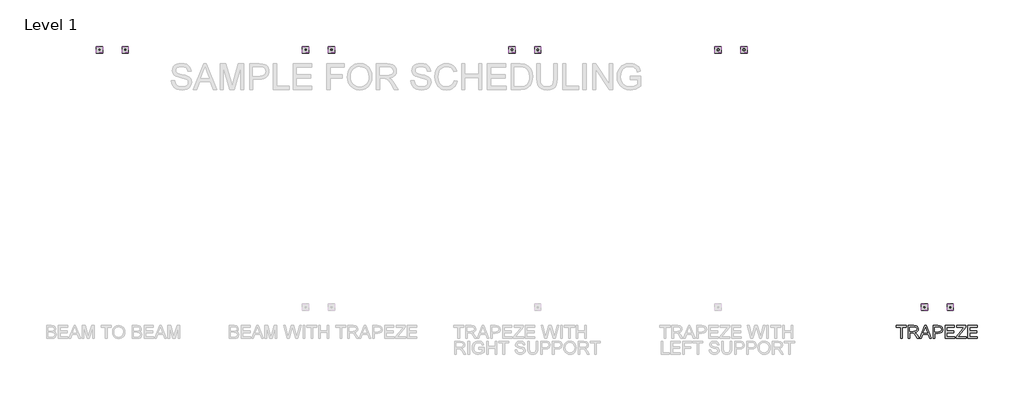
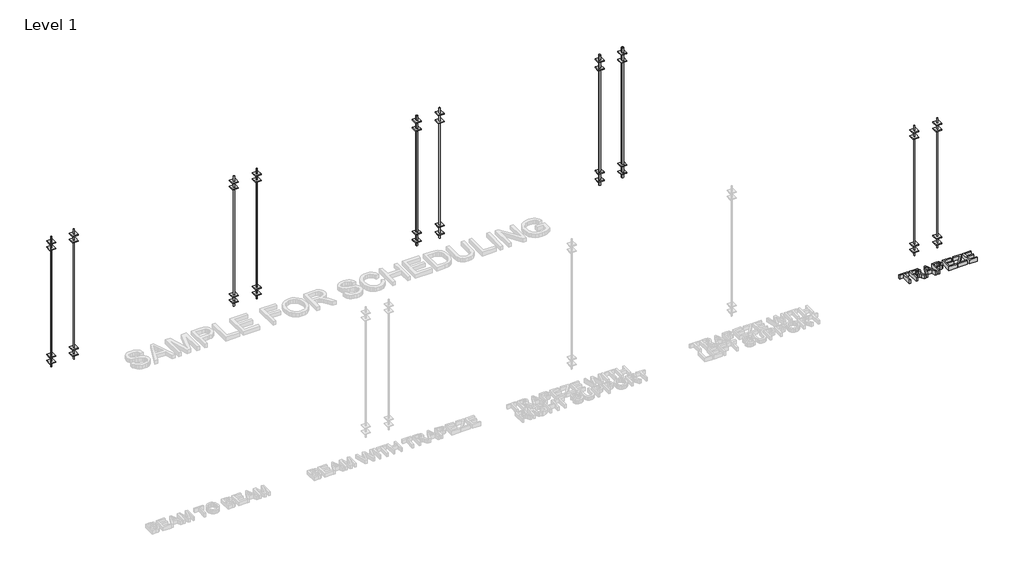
# One storey, part 3 of 3: 51 proxies.
"""IFC4 building model written with IfcOpenShell, lengths in millimetres."""

from ifc_helpers import new_model, si_unit, origin, origin_with_axes, place, context, project, spatial, polyline, outline, extrude, transform, mapped, element, save
from components import square_washer_square_washer_0353e511, square_washer_square_washer_f6f5ad69, square_washer_square_washer_77dea3ba, square_washer_square_washer_7615696c, square_washer_square_washer_27417f0d, square_washer_square_washer_42406848, threaded_rod_threaded_rod_3e89cda6, threaded_rod_threaded_rod_2e177004, threaded_rod_threaded_rod_82d1eb91, threaded_rod_threaded_rod_d3e18632

model = new_model("IFC4")

# Units and contexts
model_context = context("Model", 3, world=origin())
ifc_project = project(units=[si_unit("LENGTHUNIT", "METRE", prefix="MILLI")], contexts=[model_context])

# Site, building, storey
site = spatial("IfcSite", under=ifc_project)
building = spatial("IfcBuilding", under=site)
storey = spatial("IfcBuildingStorey", under=building, Name="Level 1", Elevation=0.0)

# Proxies
placement = place(None, origin())
element("IfcBuildingElementProxy", 1, Name="6\" Arial", ObjectType="6\" Arial", at=placement, inside=storey, context=model_context, shape_type="SweptSolid", body=[
    extrude(outline(polyline([(9318.6019632, -3418.4860814), (9318.6019632, -3284.5275918), (9268.3675297, -3284.5275918), (9268.3675297, -3265.3906647), (9387.9733239, -3265.3906647), (9387.9733239, -3284.5275918), (9337.7388903, -3284.5275918), (9337.7388903, -3418.4860814), (9318.6019632, -3418.4860814)])), origin_with_axes(), (0.0, 0.0, 1.0), 50.8),
    extrude(outline(polyline([(9409.5023669, -3418.4860814), (9409.5023669, -3265.3906647), (9475.4724378, -3265.3906647), (9506.1027342, -3269.5208023), (9515.5310347, -3275.2394543), (9522.8475454, -3284.1351353), (9527.5430072, -3295.1659665), (9529.1081612, -3307.2900695), (9526.5151449, -3322.3716126), (9518.7360962, -3334.8741558), (9505.5374099, -3344.0408186), (9486.685481, -3349.1147207), (9497.5621329, -3357.3002422), (9513.0735094, -3376.9978215), (9538.6018711, -3418.4860814), (9516.3626687, -3418.4860814), (9496.4408286, -3386.7531691), (9482.0507565, -3365.7474015), (9471.9403292, -3355.8238582), (9462.8390758, -3352.1796192), (9451.738163, -3351.5068366), (9428.639294, -3351.5068366), (9428.639294, -3418.4860814), (9409.5023669, -3418.4860814)]), holes=[polyline([(9428.639294, -3332.3699095), (9471.4731191, -3332.3699095), (9493.3198649, -3329.6600907), (9505.7289661, -3320.9886706), (9509.9712341, -3308.0002289), (9507.9482142, -3298.6653704), (9501.8791546, -3291.1432873), (9491.4370081, -3286.1815157), (9476.2947276, -3284.5275918), (9428.639294, -3284.5275918), (9428.639294, -3332.3699095)])]), origin_with_axes(), (0.0, 0.0, 1.0), 50.8),
    extrude(outline(polyline([(9544.7690449, -3418.4860814), (9605.8801304, -3265.3906647), (9622.1764198, -3265.3906647), (9683.2875053, -3418.4860814), (9663.0666508, -3418.4860814), (9645.5369265, -3370.6437637), (9582.4822469, -3370.6437637), (9564.9898994, -3418.4860814), (9544.7690449, -3418.4860814)]), holes=[polyline([(9589.5090873, -3351.5068366), (9638.5474629, -3351.5068366), (9624.7554198, -3313.8683882), (9614.0282751, -3284.5275918), (9604.4971884, -3310.5792289), (9589.5090873, -3351.5068366)])]), origin_with_axes(), (0.0, 0.0, 1.0), 50.8),
    extrude(outline(polyline([(9703.7326208, -3418.4860814), (9703.7326208, -3265.3906647), (9760.4706195, -3265.3906647), (9783.3452276, -3266.8483603), (9801.9401909, -3274.0060196), (9813.9942124, -3288.8072366), (9818.5541833, -3309.6821854), (9815.4752685, -3327.7258408), (9806.2385242, -3342.7606629), (9788.9657655, -3352.908467), (9761.7788078, -3356.2910684), (9722.8695479, -3356.2910684), (9722.8695479, -3418.4860814), (9703.7326208, -3418.4860814)]), holes=[polyline([(9722.8695479, -3337.1541413), (9762.9001122, -3337.1541413), (9779.8691842, -3335.3974312), (9791.0822274, -3330.1273009), (9797.333499, -3321.6707974), (9799.4172562, -3310.354968), (9794.5022056, -3294.5072003), (9781.5885175, -3285.8357802), (9762.4515904, -3284.5275918), (9722.8695479, -3284.5275918), (9722.8695479, -3337.1541413)])]), origin_with_axes(), (0.0, 0.0, 1.0), 50.8),
    extrude(outline(polyline([(9844.867458, -3418.4860814), (9844.867458, -3265.3906647), (9954.9047888, -3265.3906647), (9954.9047888, -3284.5275918), (9864.0043851, -3284.5275918), (9864.0043851, -3329.9777936), (9950.120557, -3329.9777936), (9950.120557, -3349.1147207), (9864.0043851, -3349.1147207), (9864.0043851, -3399.3491543), (9957.2969047, -3399.3491543), (9957.2969047, -3418.4860814), (9844.867458, -3418.4860814)])), origin_with_axes(), (0.0, 0.0, 1.0), 50.8),
    extrude(outline(polyline([(9974.0417159, -3418.4860814), (9974.0417159, -3398.6389949), (10052.3461343, -3302.7674754), (10067.222105, -3284.5275918), (9983.6101794, -3284.5275918), (9983.6101794, -3265.3906647), (10091.2553942, -3265.3906647), (10091.2553942, -3284.5275918), (10005.5503673, -3389.4442995), (9997.4769762, -3399.3491543), (10093.6475101, -3399.3491543), (10093.6475101, -3418.4860814), (9974.0417159, -3418.4860814)])), origin_with_axes(), (0.0, 0.0, 1.0), 50.8),
    extrude(outline(polyline([(10115.1765531, -3418.4860814), (10115.1765531, -3265.3906647), (10225.2138838, -3265.3906647), (10225.2138838, -3284.5275918), (10134.3134802, -3284.5275918), (10134.3134802, -3329.9777936), (10220.4296521, -3329.9777936), (10220.4296521, -3349.1147207), (10134.3134802, -3349.1147207), (10134.3134802, -3399.3491543), (10227.6059997, -3399.3491543), (10227.6059997, -3418.4860814), (10115.1765531, -3418.4860814)])), origin_with_axes(), (0.0, 0.0, 1.0), 50.8),
])
square_washer_square_washer_shape = square_washer_square_washer_0353e511(model_context)
element("IfcBuildingElementProxy", 2, Name="SQUARE WASHER : SQUARE WASHER", ObjectType="SQUARE WASHER : SQUARE WASHER", at=placement, inside=storey, context=model_context, shape_type="MappedRepresentation", body=[
    mapped(square_washer_square_washer_shape, transform((-152.4, 0.0, 1743.075), x_axis=(1.0, 0.0, 0.0), y_axis=(0.0, 1.0, 0.0), z_axis=(0.0, 0.0, 1.0))),
])
element("IfcBuildingElementProxy", 3, Name="SQUARE WASHER : SQUARE WASHER", ObjectType="SQUARE WASHER : SQUARE WASHER", at=placement, inside=storey, context=model_context, shape_type="MappedRepresentation", body=[
    mapped(square_washer_square_washer_shape, transform((-152.4, 0.0, 1828.8), x_axis=(1.0, 0.0, 0.0), y_axis=(0.0, 1.0, 0.0), z_axis=(0.0, 0.0, 1.0))),
])
element("IfcBuildingElementProxy", 4, Name="SQUARE WASHER : SQUARE WASHER", ObjectType="SQUARE WASHER : SQUARE WASHER", at=placement, inside=storey, context=model_context, shape_type="MappedRepresentation", body=[
    mapped(square_washer_square_washer_shape, transform((-152.4, 0.0, 228.6), x_axis=(1.0, 0.0, 0.0), y_axis=(0.0, 1.0, 0.0), z_axis=(0.0, 0.0, 1.0))),
])
element("IfcBuildingElementProxy", 5, Name="SQUARE WASHER : SQUARE WASHER", ObjectType="SQUARE WASHER : SQUARE WASHER", at=placement, inside=storey, context=model_context, shape_type="MappedRepresentation", body=[
    mapped(square_washer_square_washer_shape, transform((-152.4, 0.0, 142.875), x_axis=(1.0, 0.0, 0.0), y_axis=(0.0, 1.0, 0.0), z_axis=(0.0, 0.0, 1.0))),
])
element("IfcBuildingElementProxy", 6, Name="SQUARE WASHER : SQUARE WASHER", ObjectType="SQUARE WASHER : SQUARE WASHER", at=placement, inside=storey, context=model_context, shape_type="MappedRepresentation", body=[
    mapped(square_washer_square_washer_shape, transform((152.4, 0.0, 1743.075), x_axis=(1.0, 0.0, 0.0), y_axis=(0.0, 1.0, 0.0), z_axis=(0.0, 0.0, 1.0))),
])
element("IfcBuildingElementProxy", 7, Name="SQUARE WASHER : SQUARE WASHER", ObjectType="SQUARE WASHER : SQUARE WASHER", at=placement, inside=storey, context=model_context, shape_type="MappedRepresentation", body=[
    mapped(square_washer_square_washer_shape, transform((152.4, 0.0, 1828.8), x_axis=(1.0, 0.0, 0.0), y_axis=(0.0, 1.0, 0.0), z_axis=(0.0, 0.0, 1.0))),
])
element("IfcBuildingElementProxy", 8, Name="SQUARE WASHER : SQUARE WASHER", ObjectType="SQUARE WASHER : SQUARE WASHER", at=placement, inside=storey, context=model_context, shape_type="MappedRepresentation", body=[
    mapped(square_washer_square_washer_shape, transform((152.4, 0.0, 228.6), x_axis=(1.0, 0.0, 0.0), y_axis=(0.0, 1.0, 0.0), z_axis=(0.0, 0.0, 1.0))),
])
element("IfcBuildingElementProxy", 9, Name="SQUARE WASHER : SQUARE WASHER", ObjectType="SQUARE WASHER : SQUARE WASHER", at=placement, inside=storey, context=model_context, shape_type="MappedRepresentation", body=[
    mapped(square_washer_square_washer_shape, transform((152.4, 0.0, 142.875), x_axis=(1.0, 0.0, 0.0), y_axis=(0.0, 1.0, 0.0), z_axis=(0.0, 0.0, 1.0))),
])
element("IfcBuildingElementProxy", 10, Name="SQUARE WASHER : SQUARE WASHER", ObjectType="SQUARE WASHER : SQUARE WASHER", at=placement, inside=storey, context=model_context, shape_type="MappedRepresentation", body=[
    mapped(square_washer_square_washer_shape, transform((9601.2, -3048.0, 1743.075), x_axis=(1.0, 0.0, 0.0), y_axis=(0.0, 1.0, 0.0), z_axis=(0.0, 0.0, 1.0))),
])
element("IfcBuildingElementProxy", 11, Name="SQUARE WASHER : SQUARE WASHER", ObjectType="SQUARE WASHER : SQUARE WASHER", at=placement, inside=storey, context=model_context, shape_type="MappedRepresentation", body=[
    mapped(square_washer_square_washer_shape, transform((9601.2, -3048.0, 1828.8), x_axis=(1.0, 0.0, 0.0), y_axis=(0.0, 1.0, 0.0), z_axis=(0.0, 0.0, 1.0))),
])
element("IfcBuildingElementProxy", 12, Name="SQUARE WASHER : SQUARE WASHER", ObjectType="SQUARE WASHER : SQUARE WASHER", at=placement, inside=storey, context=model_context, shape_type="MappedRepresentation", body=[
    mapped(square_washer_square_washer_shape, transform((9601.2, -3048.0, 228.6), x_axis=(1.0, 0.0, 0.0), y_axis=(0.0, 1.0, 0.0), z_axis=(0.0, 0.0, 1.0))),
])
element("IfcBuildingElementProxy", 13, Name="SQUARE WASHER : SQUARE WASHER", ObjectType="SQUARE WASHER : SQUARE WASHER", at=placement, inside=storey, context=model_context, shape_type="MappedRepresentation", body=[
    mapped(square_washer_square_washer_shape, transform((9601.2, -3048.0, 142.875), x_axis=(1.0, 0.0, 0.0), y_axis=(0.0, 1.0, 0.0), z_axis=(0.0, 0.0, 1.0))),
])
element("IfcBuildingElementProxy", 14, Name="SQUARE WASHER : SQUARE WASHER", ObjectType="SQUARE WASHER : SQUARE WASHER", at=placement, inside=storey, context=model_context, shape_type="MappedRepresentation", body=[
    mapped(square_washer_square_washer_shape, transform((9906.0, -3048.0, 1743.075), x_axis=(1.0, 0.0, 0.0), y_axis=(0.0, 1.0, 0.0), z_axis=(0.0, 0.0, 1.0))),
])
element("IfcBuildingElementProxy", 15, Name="SQUARE WASHER : SQUARE WASHER", ObjectType="SQUARE WASHER : SQUARE WASHER", at=placement, inside=storey, context=model_context, shape_type="MappedRepresentation", body=[
    mapped(square_washer_square_washer_shape, transform((9906.0, -3048.0, 1828.8), x_axis=(1.0, 0.0, 0.0), y_axis=(0.0, 1.0, 0.0), z_axis=(0.0, 0.0, 1.0))),
])
element("IfcBuildingElementProxy", 16, Name="SQUARE WASHER : SQUARE WASHER", ObjectType="SQUARE WASHER : SQUARE WASHER", at=placement, inside=storey, context=model_context, shape_type="MappedRepresentation", body=[
    mapped(square_washer_square_washer_shape, transform((9906.0, -3048.0, 228.6), x_axis=(1.0, 0.0, 0.0), y_axis=(0.0, 1.0, 0.0), z_axis=(0.0, 0.0, 1.0))),
])
element("IfcBuildingElementProxy", 17, Name="SQUARE WASHER : SQUARE WASHER", ObjectType="SQUARE WASHER : SQUARE WASHER", at=placement, inside=storey, context=model_context, shape_type="MappedRepresentation", body=[
    mapped(square_washer_square_washer_shape, transform((9906.0, -3048.0, 142.875), x_axis=(1.0, 0.0, 0.0), y_axis=(0.0, 1.0, 0.0), z_axis=(0.0, 0.0, 1.0))),
])
square_washer_square_washer_2_shape = square_washer_square_washer_f6f5ad69(model_context)
element("IfcBuildingElementProxy", 18, Name="SQUARE WASHER : SQUARE WASHER", ObjectType="SQUARE WASHER : SQUARE WASHER", at=placement, inside=storey, context=model_context, shape_type="MappedRepresentation", body=[
    mapped(square_washer_square_washer_2_shape, transform((4724.4, 0.0, 1714.5), x_axis=(1.0, 0.0, 0.0), y_axis=(0.0, 1.0, 0.0), z_axis=(0.0, 0.0, 1.0))),
])
element("IfcBuildingElementProxy", 19, Name="SQUARE WASHER : SQUARE WASHER", ObjectType="SQUARE WASHER : SQUARE WASHER", at=placement, inside=storey, context=model_context, shape_type="MappedRepresentation", body=[
    mapped(square_washer_square_washer_2_shape, transform((4724.4, 0.0, 1828.8), x_axis=(1.0, 0.0, 0.0), y_axis=(0.0, 1.0, 0.0), z_axis=(0.0, 0.0, 1.0))),
])
element("IfcBuildingElementProxy", 20, Name="SQUARE WASHER : SQUARE WASHER", ObjectType="SQUARE WASHER : SQUARE WASHER", at=placement, inside=storey, context=model_context, shape_type="MappedRepresentation", body=[
    mapped(square_washer_square_washer_2_shape, transform((4724.4, 0.0, 254.0), x_axis=(1.0, 0.0, 0.0), y_axis=(0.0, 1.0, 0.0), z_axis=(0.0, 0.0, 1.0))),
])
element("IfcBuildingElementProxy", 21, Name="SQUARE WASHER : SQUARE WASHER", ObjectType="SQUARE WASHER : SQUARE WASHER", at=placement, inside=storey, context=model_context, shape_type="MappedRepresentation", body=[
    mapped(square_washer_square_washer_2_shape, transform((4724.4, 0.0, 139.7), x_axis=(1.0, 0.0, 0.0), y_axis=(0.0, 1.0, 0.0), z_axis=(0.0, 0.0, 1.0))),
])
square_washer_square_washer_3_shape = square_washer_square_washer_77dea3ba(model_context)
element("IfcBuildingElementProxy", 22, Name="SQUARE WASHER : SQUARE WASHER", ObjectType="SQUARE WASHER : SQUARE WASHER", at=placement, inside=storey, context=model_context, shape_type="MappedRepresentation", body=[
    mapped(square_washer_square_washer_3_shape, transform((7162.8, 0.0, 1714.5), x_axis=(1.0, 0.0, 0.0), y_axis=(0.0, 1.0, 0.0), z_axis=(0.0, 0.0, 1.0))),
])
element("IfcBuildingElementProxy", 23, Name="SQUARE WASHER : SQUARE WASHER", ObjectType="SQUARE WASHER : SQUARE WASHER", at=placement, inside=storey, context=model_context, shape_type="MappedRepresentation", body=[
    mapped(square_washer_square_washer_3_shape, transform((7162.8, 0.0, 1828.8), x_axis=(1.0, 0.0, 0.0), y_axis=(0.0, 1.0, 0.0), z_axis=(0.0, 0.0, 1.0))),
])
element("IfcBuildingElementProxy", 24, Name="SQUARE WASHER : SQUARE WASHER", ObjectType="SQUARE WASHER : SQUARE WASHER", at=placement, inside=storey, context=model_context, shape_type="MappedRepresentation", body=[
    mapped(square_washer_square_washer_3_shape, transform((7162.8, 0.0, 254.0), x_axis=(1.0, 0.0, 0.0), y_axis=(0.0, 1.0, 0.0), z_axis=(0.0, 0.0, 1.0))),
])
element("IfcBuildingElementProxy", 25, Name="SQUARE WASHER : SQUARE WASHER", ObjectType="SQUARE WASHER : SQUARE WASHER", at=placement, inside=storey, context=model_context, shape_type="MappedRepresentation", body=[
    mapped(square_washer_square_washer_3_shape, transform((7162.8, 0.0, 139.7), x_axis=(1.0, 0.0, 0.0), y_axis=(0.0, 1.0, 0.0), z_axis=(0.0, 0.0, 1.0))),
])
square_washer_square_washer_4_shape = square_washer_square_washer_7615696c(model_context)
element("IfcBuildingElementProxy", 26, Name="SQUARE WASHER : SQUARE WASHER", ObjectType="SQUARE WASHER : SQUARE WASHER", at=placement, inside=storey, context=model_context, shape_type="MappedRepresentation", body=[
    mapped(square_washer_square_washer_4_shape, transform((5029.2, 0.0, 1717.675), x_axis=(1.0, 0.0, 0.0), y_axis=(0.0, 1.0, 0.0), z_axis=(0.0, 0.0, 1.0))),
])
element("IfcBuildingElementProxy", 27, Name="SQUARE WASHER : SQUARE WASHER", ObjectType="SQUARE WASHER : SQUARE WASHER", at=placement, inside=storey, context=model_context, shape_type="MappedRepresentation", body=[
    mapped(square_washer_square_washer_4_shape, transform((5029.2, 0.0, 1828.8), x_axis=(1.0, 0.0, 0.0), y_axis=(0.0, 1.0, 0.0), z_axis=(0.0, 0.0, 1.0))),
])
element("IfcBuildingElementProxy", 28, Name="SQUARE WASHER : SQUARE WASHER", ObjectType="SQUARE WASHER : SQUARE WASHER", at=placement, inside=storey, context=model_context, shape_type="MappedRepresentation", body=[
    mapped(square_washer_square_washer_4_shape, transform((5029.2, 0.0, 254.0), x_axis=(1.0, 0.0, 0.0), y_axis=(0.0, 1.0, 0.0), z_axis=(0.0, 0.0, 1.0))),
])
element("IfcBuildingElementProxy", 29, Name="SQUARE WASHER : SQUARE WASHER", ObjectType="SQUARE WASHER : SQUARE WASHER", at=placement, inside=storey, context=model_context, shape_type="MappedRepresentation", body=[
    mapped(square_washer_square_washer_4_shape, transform((5029.2, 0.0, 142.875), x_axis=(1.0, 0.0, 0.0), y_axis=(0.0, 1.0, 0.0), z_axis=(0.0, 0.0, 1.0))),
])
square_washer_square_washer_5_shape = square_washer_square_washer_27417f0d(model_context)
element("IfcBuildingElementProxy", 30, Name="SQUARE WASHER : SQUARE WASHER", ObjectType="SQUARE WASHER : SQUARE WASHER", at=placement, inside=storey, context=model_context, shape_type="MappedRepresentation", body=[
    mapped(square_washer_square_washer_5_shape, transform((7467.6, 0.0, 1717.675), x_axis=(1.0, 0.0, 0.0), y_axis=(0.0, 1.0, 0.0), z_axis=(0.0, 0.0, 1.0))),
])
element("IfcBuildingElementProxy", 31, Name="SQUARE WASHER : SQUARE WASHER", ObjectType="SQUARE WASHER : SQUARE WASHER", at=placement, inside=storey, context=model_context, shape_type="MappedRepresentation", body=[
    mapped(square_washer_square_washer_5_shape, transform((7467.6, 0.0, 1828.8), x_axis=(1.0, 0.0, 0.0), y_axis=(0.0, 1.0, 0.0), z_axis=(0.0, 0.0, 1.0))),
])
element("IfcBuildingElementProxy", 32, Name="SQUARE WASHER : SQUARE WASHER", ObjectType="SQUARE WASHER : SQUARE WASHER", at=placement, inside=storey, context=model_context, shape_type="MappedRepresentation", body=[
    mapped(square_washer_square_washer_5_shape, transform((7467.6, 0.0, 254.0), x_axis=(1.0, 0.0, 0.0), y_axis=(0.0, 1.0, 0.0), z_axis=(0.0, 0.0, 1.0))),
])
element("IfcBuildingElementProxy", 33, Name="SQUARE WASHER : SQUARE WASHER", ObjectType="SQUARE WASHER : SQUARE WASHER", at=placement, inside=storey, context=model_context, shape_type="MappedRepresentation", body=[
    mapped(square_washer_square_washer_5_shape, transform((7467.6, 0.0, 142.875), x_axis=(1.0, 0.0, 0.0), y_axis=(0.0, 1.0, 0.0), z_axis=(0.0, 0.0, 1.0))),
])
square_washer_square_washer_6_shape = square_washer_square_washer_42406848(model_context)
element("IfcBuildingElementProxy", 34, Name="SQUARE WASHER : SQUARE WASHER", ObjectType="SQUARE WASHER : SQUARE WASHER", at=placement, inside=storey, context=model_context, shape_type="MappedRepresentation", body=[
    mapped(square_washer_square_washer_6_shape, transform((2590.8, 0.0, 1743.075), x_axis=(1.0, 0.0, 0.0), y_axis=(0.0, 1.0, 0.0), z_axis=(0.0, 0.0, 1.0))),
])
element("IfcBuildingElementProxy", 35, Name="SQUARE WASHER : SQUARE WASHER", ObjectType="SQUARE WASHER : SQUARE WASHER", at=placement, inside=storey, context=model_context, shape_type="MappedRepresentation", body=[
    mapped(square_washer_square_washer_6_shape, transform((2590.8, 0.0, 1828.8), x_axis=(1.0, 0.0, 0.0), y_axis=(0.0, 1.0, 0.0), z_axis=(0.0, 0.0, 1.0))),
])
element("IfcBuildingElementProxy", 36, Name="SQUARE WASHER : SQUARE WASHER", ObjectType="SQUARE WASHER : SQUARE WASHER", at=placement, inside=storey, context=model_context, shape_type="MappedRepresentation", body=[
    mapped(square_washer_square_washer_6_shape, transform((2590.8, 0.0, 228.6), x_axis=(1.0, 0.0, 0.0), y_axis=(0.0, 1.0, 0.0), z_axis=(0.0, 0.0, 1.0))),
])
element("IfcBuildingElementProxy", 37, Name="SQUARE WASHER : SQUARE WASHER", ObjectType="SQUARE WASHER : SQUARE WASHER", at=placement, inside=storey, context=model_context, shape_type="MappedRepresentation", body=[
    mapped(square_washer_square_washer_6_shape, transform((2590.8, 0.0, 142.875), x_axis=(1.0, 0.0, 0.0), y_axis=(0.0, 1.0, 0.0), z_axis=(0.0, 0.0, 1.0))),
])
element("IfcBuildingElementProxy", 38, Name="SQUARE WASHER : SQUARE WASHER", ObjectType="SQUARE WASHER : SQUARE WASHER", at=placement, inside=storey, context=model_context, shape_type="MappedRepresentation", body=[
    mapped(square_washer_square_washer_6_shape, transform((2286.0, 0.0, 1743.075), x_axis=(1.0, 0.0, 0.0), y_axis=(0.0, 1.0, 0.0), z_axis=(0.0, 0.0, 1.0))),
])
element("IfcBuildingElementProxy", 39, Name="SQUARE WASHER : SQUARE WASHER", ObjectType="SQUARE WASHER : SQUARE WASHER", at=placement, inside=storey, context=model_context, shape_type="MappedRepresentation", body=[
    mapped(square_washer_square_washer_6_shape, transform((2286.0, 0.0, 1828.8), x_axis=(1.0, 0.0, 0.0), y_axis=(0.0, 1.0, 0.0), z_axis=(0.0, 0.0, 1.0))),
])
element("IfcBuildingElementProxy", 40, Name="SQUARE WASHER : SQUARE WASHER", ObjectType="SQUARE WASHER : SQUARE WASHER", at=placement, inside=storey, context=model_context, shape_type="MappedRepresentation", body=[
    mapped(square_washer_square_washer_6_shape, transform((2286.0, 0.0, 228.6), x_axis=(1.0, 0.0, 0.0), y_axis=(0.0, 1.0, 0.0), z_axis=(0.0, 0.0, 1.0))),
])
element("IfcBuildingElementProxy", 41, Name="SQUARE WASHER : SQUARE WASHER", ObjectType="SQUARE WASHER : SQUARE WASHER", at=placement, inside=storey, context=model_context, shape_type="MappedRepresentation", body=[
    mapped(square_washer_square_washer_6_shape, transform((2286.0, 0.0, 142.875), x_axis=(1.0, 0.0, 0.0), y_axis=(0.0, 1.0, 0.0), z_axis=(0.0, 0.0, 1.0))),
])
threaded_rod_threaded_rod_shape = threaded_rod_threaded_rod_3e89cda6(model_context)
element("IfcBuildingElementProxy", 42, Name="THREADED ROD : THREADED ROD", ObjectType="THREADED ROD : THREADED ROD", at=placement, inside=storey, context=model_context, shape_type="MappedRepresentation", body=[
    mapped(threaded_rod_threaded_rod_shape, transform((-152.4, 0.0, 76.2), x_axis=(1.0, 0.0, 0.0), y_axis=(0.0, 1.0, 0.0), z_axis=(0.0, 0.0, 1.0))),
])
element("IfcBuildingElementProxy", 43, Name="THREADED ROD : THREADED ROD", ObjectType="THREADED ROD : THREADED ROD", at=placement, inside=storey, context=model_context, shape_type="MappedRepresentation", body=[
    mapped(threaded_rod_threaded_rod_shape, transform((152.4, 0.0, 76.2), x_axis=(1.0, 0.0, 0.0), y_axis=(0.0, 1.0, 0.0), z_axis=(0.0, 0.0, 1.0))),
])
element("IfcBuildingElementProxy", 44, Name="THREADED ROD : THREADED ROD", ObjectType="THREADED ROD : THREADED ROD", at=placement, inside=storey, context=model_context, shape_type="MappedRepresentation", body=[
    mapped(threaded_rod_threaded_rod_shape, transform((9601.2, -3048.0, 76.2), x_axis=(1.0, 0.0, 0.0), y_axis=(0.0, 1.0, 0.0), z_axis=(0.0, 0.0, 1.0))),
])
element("IfcBuildingElementProxy", 45, Name="THREADED ROD : THREADED ROD", ObjectType="THREADED ROD : THREADED ROD", at=placement, inside=storey, context=model_context, shape_type="MappedRepresentation", body=[
    mapped(threaded_rod_threaded_rod_shape, transform((9906.0, -3048.0, 76.2), x_axis=(1.0, 0.0, 0.0), y_axis=(0.0, 1.0, 0.0), z_axis=(0.0, 0.0, 1.0))),
])
threaded_rod_threaded_rod_2_shape = threaded_rod_threaded_rod_2e177004(model_context)
element("IfcBuildingElementProxy", 46, Name="THREADED ROD : THREADED ROD", ObjectType="THREADED ROD : THREADED ROD", at=placement, inside=storey, context=model_context, shape_type="MappedRepresentation", body=[
    mapped(threaded_rod_threaded_rod_2_shape, transform((5029.2, 0.0, 76.2), x_axis=(1.0, 0.0, 0.0), y_axis=(0.0, 1.0, 0.0), z_axis=(0.0, 0.0, 1.0))),
])
element("IfcBuildingElementProxy", 47, Name="THREADED ROD : THREADED ROD", ObjectType="THREADED ROD : THREADED ROD", at=placement, inside=storey, context=model_context, shape_type="MappedRepresentation", body=[
    mapped(threaded_rod_threaded_rod_2_shape, transform((4724.4, 0.0, 76.2), x_axis=(1.0, 0.0, 0.0), y_axis=(0.0, 1.0, 0.0), z_axis=(0.0, 0.0, 1.0))),
])
threaded_rod_threaded_rod_3_shape = threaded_rod_threaded_rod_82d1eb91(model_context)
element("IfcBuildingElementProxy", 48, Name="THREADED ROD : THREADED ROD", ObjectType="THREADED ROD : THREADED ROD", at=placement, inside=storey, context=model_context, shape_type="MappedRepresentation", body=[
    mapped(threaded_rod_threaded_rod_3_shape, transform((7467.6, 0.0, 76.2), x_axis=(1.0, 0.0, 0.0), y_axis=(0.0, 1.0, 0.0), z_axis=(0.0, 0.0, 1.0))),
])
element("IfcBuildingElementProxy", 49, Name="THREADED ROD : THREADED ROD", ObjectType="THREADED ROD : THREADED ROD", at=placement, inside=storey, context=model_context, shape_type="MappedRepresentation", body=[
    mapped(threaded_rod_threaded_rod_3_shape, transform((7162.8, 0.0, 76.2), x_axis=(1.0, 0.0, 0.0), y_axis=(0.0, 1.0, 0.0), z_axis=(0.0, 0.0, 1.0))),
])
threaded_rod_threaded_rod_4_shape = threaded_rod_threaded_rod_d3e18632(model_context)
element("IfcBuildingElementProxy", 50, Name="THREADED ROD : THREADED ROD", ObjectType="THREADED ROD : THREADED ROD", at=placement, inside=storey, context=model_context, shape_type="MappedRepresentation", body=[
    mapped(threaded_rod_threaded_rod_4_shape, transform((2590.8, 0.0, 76.2), x_axis=(1.0, 0.0, 0.0), y_axis=(0.0, 1.0, 0.0), z_axis=(0.0, 0.0, 1.0))),
])
element("IfcBuildingElementProxy", 51, Name="THREADED ROD : THREADED ROD", ObjectType="THREADED ROD : THREADED ROD", at=placement, inside=storey, context=model_context, shape_type="MappedRepresentation", body=[
    mapped(threaded_rod_threaded_rod_4_shape, transform((2286.0, 0.0, 76.2), x_axis=(1.0, 0.0, 0.0), y_axis=(0.0, 1.0, 0.0), z_axis=(0.0, 0.0, 1.0))),
])

save(model, "model.ifc")
